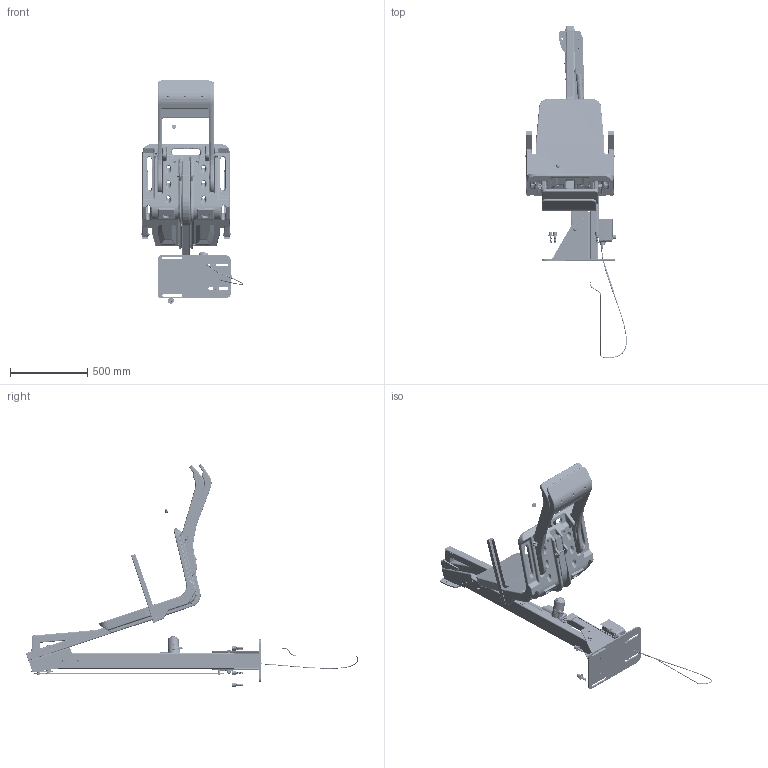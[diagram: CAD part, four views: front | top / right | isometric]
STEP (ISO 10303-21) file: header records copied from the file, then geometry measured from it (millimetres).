
FILE_DESCRIPTION (( 'STEP AP214' ), '1' );
FILE_NAME ('580-0000.STEP', '2022-07-18T19:44:04', ( '' ), ( '' ), 'SwSTEP 2.0', 'SolidWorks 2021', '' );
FILE_SCHEMA (( 'AUTOMOTIVE_DESIGN' ));
Length unit declared in the file: inch
Products named in the file (136): 1001438_T25 drive; 50300026BENDISS2; 160-2700; 06-071; 05-14-132; 800-0301_90585A624; 580-1010; 160-2700A; 800-0305_91735A242; 580-1130; 580-1000-1; 1001433; PART1_5; 580-1640; 05-625-7_92186A822; 50300027331113; 170-3000; 52770001901111; 800-0311; WIRE_bent 1; 05-616; 1001509; 160-8620-1; 05-631; PART1_4; 05-3125-LN-MG_90715A135; 1001493_90380A106; 1001423; 160-8530; 1001502_bent wires; 800-2000_91831A127; 580-1200A_EXPLODE; 580-1230; 160-8800; 800-0306; USB c-0292336-01-a-3d; 1001494_90022A240; 5-303; 1001487; 800-2003_91831A137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
Assembly tree (239 placements, depth 6):
  580-0000
    580-1000A
      580-1000-1
        580-1010
        580-1020
        580-1030
        580-1040  x2
      800-0300
    580-1100A
      580-1100-1
        580-1110
        580-1130
        580-1120
      06-027  x2
      800-0108  x2
      580-1600A
        580-1640
      5-145-MG_90107A127  x2
      05-33-128_90585A065  x2
      800-2000_91831A127  x2
      05-32-111  x2
      800-0104  x4
    05-631  x2
    800-0145_92141A035
    05-50-50-625SB_90298A814
    800-2003_91831A137
    05-14-133-MG
    100-8000_Default FLIPPED TO LEFT
      HW_LA34 motor housing - compact
      HW_LA34 shaft
      SIGNAL CABLE ASSEMBLY
        SIGNAL PLUG ARLAN
        SIGNAL CORD ARLAN
    05-375-3-MG_92186A636  x2
    580-1320  x4
    05-32-111  x9
    5-145-MG_90107A127  x11
    800-2000_91831A127  x2
    580-1200A_EXPLODE
      580-1200-1_Rev B
        580-1220
        580-1230
        580-1240
        580-1250  x2
        580-1251
      800-0300
    05-625-05-075FB_2938T743  x2
    05-625-7_92186A822
    05-625-TLN-MG_05-625-TLN-MG
    580-1300A
      580-1300-1
    05-375-125MG_92186A625
    800-0102  x4
    05-375-TLN-MG_97367A115
    05-3125-1625-375SB-MG_97345A226
    05-375-05B_6389K115
    05-625
    5-303
    05-3125-LN-MG_90715A135
    160-9200
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Bounding box: 658.18 x 2149.39 x 1447.94 mm (x, y, z)
Volume: 41433228.4 mm3; surface area: 6479410.2 mm2
Topology: 271 solids, 277 shells, 15925 faces, 40571 edges, 25728 vertices
Faces by surface type: plane 8026, cylinder 3000, bspline 2516, cone 1674, torus 532, sphere 177
Full cylindrical faces by diameter (mm): 0.22 x4, 0.508 x2, 0.914 x8, 1.295 x20, 1.346 x8, 1.355 x14, 1.397 x16, 1.5 x6, 1.524 x10, 1.587 x1, 1.6 x29, 1.851 x12, 2 x2, 2.286 x44, 2.337 x10, 2.413 x6, 2.794 x4, 3.175 x6, 3.226 x9, 3.429 x6, 3.75 x1, 3.81 x1, 3.988 x16, 4.039 x3, 4.496 x12, 4.765 x4, 4.826 x1, 4.917 x4, 4.953 x4, 5.069 x4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
Entity records: 485401 total; most frequent: CARTESIAN_POINT 234194, ORIENTED_EDGE 48183, DIRECTION 38947, EDGE_CURVE 24098, VERTEX_POINT 15759, AXIS2_PLACEMENT_3D 13188, LINE 12571, VECTOR 12571
